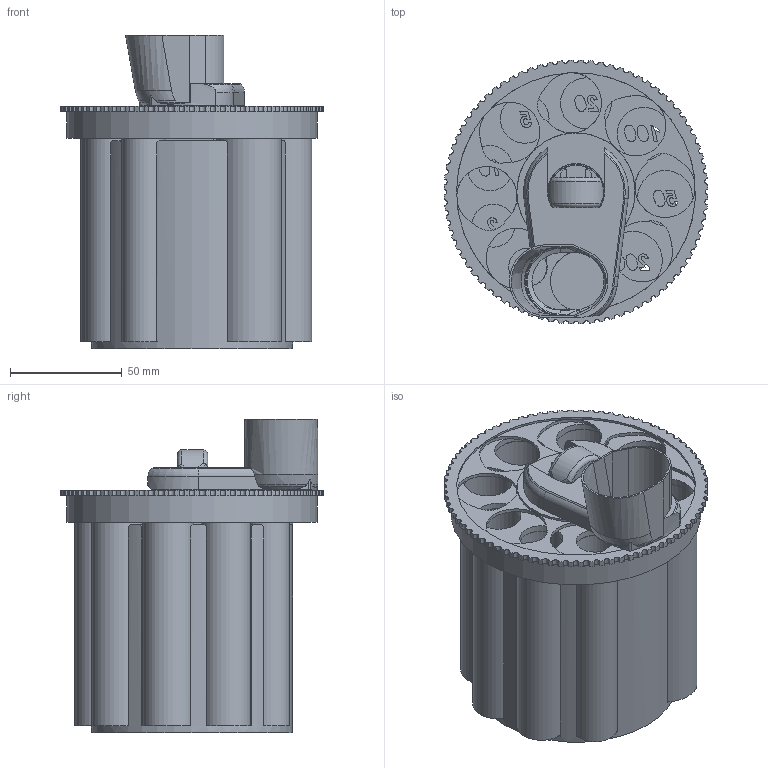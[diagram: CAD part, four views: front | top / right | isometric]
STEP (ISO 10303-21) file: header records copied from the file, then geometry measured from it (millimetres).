
FILE_DESCRIPTION(/* description */ (''),/* implementation_level */ '2;1');
FILE_NAME(/* name */ 'D:/3D_Drucker/EuroCoinSorting/munzensortierer_noname v3.step',/* time_stamp */ '2020-01-03T10:16:26+01:00',/* author */ (''),/* organization */ (''),/* preprocessor_version */ 'ST-DEVELOPER v18',/* originating_system */ 'Autodesk Translation Framework v8.12.0.6',/* authorisation */ '');
FILE_SCHEMA (('AUTOMOTIVE_DESIGN { 1 0 10303 214 3 1 1 }'));
Length unit declared in the file: millimetre
Products named in the file (1): munzensortierer_noname
Bounding box: 118.11 x 118.11 x 140.1 mm (x, y, z)
Volume: 281734.6 mm3; surface area: 253782.9 mm2
Topology: 12 solids, 12 shells, 673 faces, 1872 edges, 1233 vertices
Faces by surface type: cylinder 259, bspline 189, plane 184, cone 36, torus 5
Full cylindrical faces by diameter (mm): 17 x1, 18 x1, 19.25 x1, 19.6 x1, 20.25 x2, 20.6 x1, 21.25 x1, 21.75 x1, 21.85 x1, 22.75 x2, 22.85 x2, 23.75 x2, 23.85 x1, 24.35 x1, 24.75 x2, 25 x1, 25.35 x2, 25.5 x1, 25.75 x1, 26.25 x1, 26.35 x2, 27.25 x1, 27.35 x2, 28.35 x1, 28.85 x1, 29.85 x1, 52.888 x1, 90 x1, 106.888 x1, 112.138 x1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
Entity records: 24391 total; most frequent: CARTESIAN_POINT 7775, ORIENTED_EDGE 3744, DIRECTION 3038, EDGE_CURVE 1872, VERTEX_POINT 1233, AXIS2_PLACEMENT_3D 1115, LINE 808, VECTOR 808
